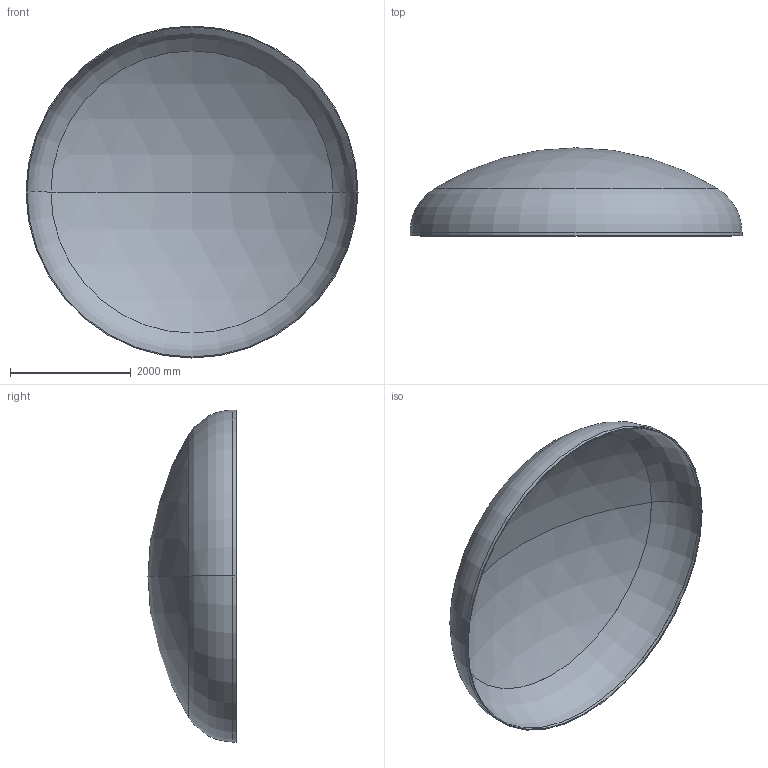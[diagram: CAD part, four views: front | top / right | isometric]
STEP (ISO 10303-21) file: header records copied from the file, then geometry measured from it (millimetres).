
FILE_DESCRIPTION (( 'STEP AP203' ), '1' );
FILE_NAME ('DIN 28013 Korbbogenform_-_Boden DIN 28013 - 5500 x 55 - I - s=16.step', '2016-07-04T10:33:38', ( '' ), ( '' ), 'SwSTEP 2.0', 'SolidWorks 2013', '' );
FILE_SCHEMA (( 'CONFIG_CONTROL_DESIGN' ));
Length unit declared in the file: millimetre
Products named in the file (1): DIN 28013 Korbbogenform_-_Boden DIN 28013 - 5500 x 55 - I - s=16
Bounding box: 5500 x 1459.41 x 5500 mm (x, y, z)
Volume: 539415595.5 mm3; surface area: 67703114 mm2
Topology: 1 solids, 1 shells, 13 faces, 24 edges, 14 vertices
Faces by surface type: torus 4, cylinder 4, sphere 4, plane 1
Entity records: 407 total; most frequent: DIRECTION 72, CARTESIAN_POINT 52, ORIENTED_EDGE 48, AXIS2_PLACEMENT_3D 34, EDGE_CURVE 24, CIRCLE 20, VERTEX_POINT 14, EDGE_LOOP 14
